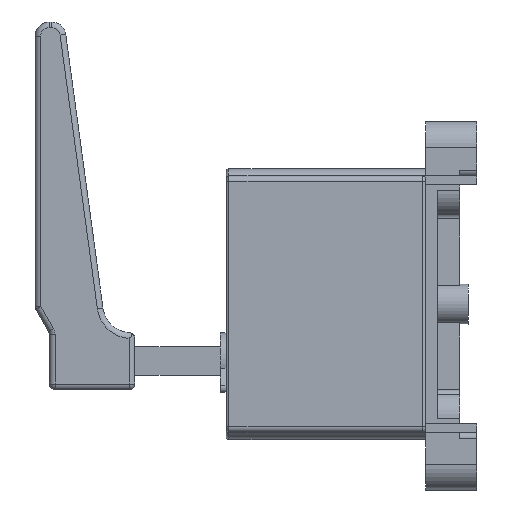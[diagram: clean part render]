
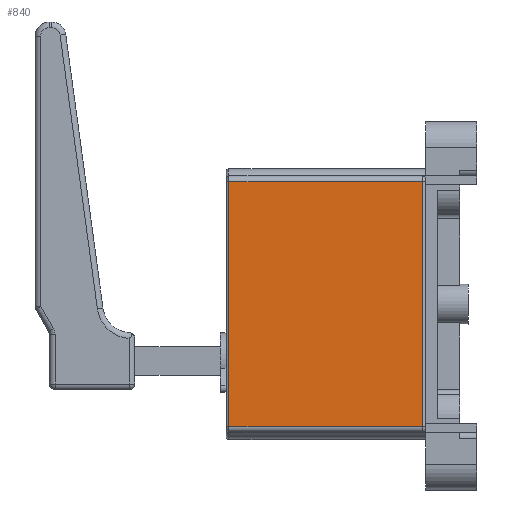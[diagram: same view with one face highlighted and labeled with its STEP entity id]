
A CAD part, left-side view. The second image highlights one B-rep face of the part: STEP entity #840.
In plain terms, the highlighted planar face has unit normal (-1, 0, 0).
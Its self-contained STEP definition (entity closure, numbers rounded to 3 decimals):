
#840=ADVANCED_FACE('',(#1172),#967,.F.);
#967=PLANE('',#5159);
#1172=FACE_OUTER_BOUND('',#1489,.T.);
#1489=EDGE_LOOP('',(#2692,#2693,#2694,#2695));
#2692=ORIENTED_EDGE('',*,*,#3886,.F.);
#2693=ORIENTED_EDGE('',*,*,#3872,.T.);
#2694=ORIENTED_EDGE('',*,*,#3887,.T.);
#2695=ORIENTED_EDGE('',*,*,#3569,.T.);
#3046=VERTEX_POINT('',#7282);
#3048=VERTEX_POINT('',#7287);
#3237=VERTEX_POINT('',#8012);
#3241=VERTEX_POINT('',#8044);
#3569=EDGE_CURVE('',#3046,#3048,#4095,.T.);
#3872=EDGE_CURVE('',#3237,#3241,#4258,.T.);
#3886=EDGE_CURVE('',#3237,#3048,#4265,.T.);
#3887=EDGE_CURVE('',#3241,#3046,#4266,.T.);
#4095=LINE('',#7288,#4474);
#4258=LINE('',#8045,#4637);
#4265=LINE('',#8097,#4644);
#4266=LINE('',#8099,#4645);
#4474=VECTOR('',#5847,1.);
#4637=VECTOR('',#6512,1.);
#4644=VECTOR('',#6537,1.);
#4645=VECTOR('',#6540,1.);
#5159=AXIS2_PLACEMENT_3D('',#8100,#6541,#6542);
#5847=DIRECTION('',(0.,0.,1.));
#6512=DIRECTION('',(0.,0.,-1.));
#6537=DIRECTION('',(0.,-1.,0.));
#6540=DIRECTION('',(0.,-1.,0.));
#6541=DIRECTION('',(1.,0.,0.));
#6542=DIRECTION('',(0.,0.,-1.));
#7282=CARTESIAN_POINT('',(-41.,1.,-43.));
#7287=CARTESIAN_POINT('',(-41.,1.,43.));
#7288=CARTESIAN_POINT('',(-41.,1.,-43.));
#8012=CARTESIAN_POINT('',(-41.,69.,43.));
#8044=CARTESIAN_POINT('',(-41.,69.,-43.));
#8045=CARTESIAN_POINT('',(-41.,69.,-43.));
#8097=CARTESIAN_POINT('',(-41.,35.,43.));
#8099=CARTESIAN_POINT('',(-41.,35.,-43.));
#8100=CARTESIAN_POINT('',(-41.,35.,-43.));
